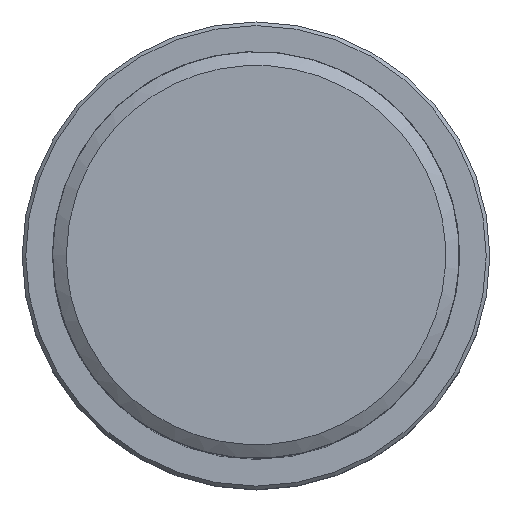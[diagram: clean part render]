
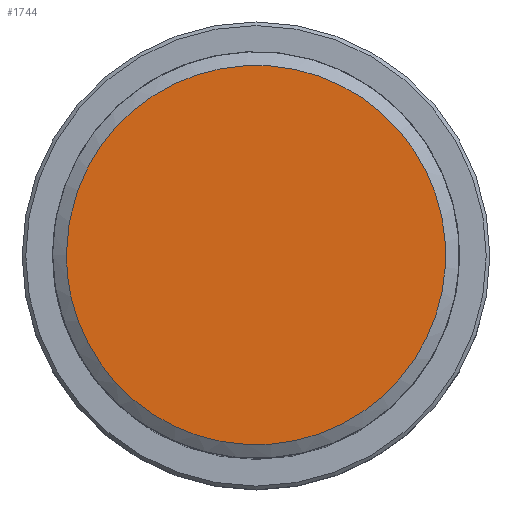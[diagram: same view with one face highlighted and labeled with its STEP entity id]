
A CAD part, top view. The second image highlights one B-rep face of the part: STEP entity #1744.
In plain terms, the highlighted planar face has unit normal (0, 0, 1).
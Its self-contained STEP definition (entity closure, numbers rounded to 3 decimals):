
#479 = VERTEX_POINT('',#480);
#480 = CARTESIAN_POINT('',(-7.38,0.006,
    16.));
#486 = EDGE_CURVE('',#479,#479,#487,.T.);
#487 = B_SPLINE_CURVE_WITH_KNOTS('',3,(#488,#489,#490,#491,#492,#493,
    #494,#495,#496,#497,#498,#499,#500,#501,#502,#503,#504,#505,#506,
    #507,#508,#509,#510,#511,#512,#513,#514,#515,#516,#517,#518,#519,
    #520,#521,#522,#523),.UNSPECIFIED.,.T.,.F.,(1,3,2,2,2,2,2,2,2,2,2,2,
    2,2,2,2,2,2,3,1),(-1.571,0.,2.862,
    5.729,8.591,11.453,14.316,
    17.178,20.041,22.904,25.767,
    28.631,31.494,34.358,37.222,
    40.087,42.951,44.52,46.091,
    48.953),.UNSPECIFIED.);
#488 = CARTESIAN_POINT('',(-7.38,0.006,
    16.));
#489 = CARTESIAN_POINT('',(-7.379,0.96,16.));
#490 = CARTESIAN_POINT('',(-7.187,1.931,16.));
#491 = CARTESIAN_POINT('',(-6.459,3.697,16.));
#492 = CARTESIAN_POINT('',(-5.91,4.523,16.));
#493 = CARTESIAN_POINT('',(-4.564,5.878,16.));
#494 = CARTESIAN_POINT('',(-3.743,6.432,16.));
#495 = CARTESIAN_POINT('',(-1.984,7.172,16.));
#496 = CARTESIAN_POINT('',(-1.014,7.372,16.));
#497 = CARTESIAN_POINT('',(0.894,7.388,16.));
#498 = CARTESIAN_POINT('',(1.867,7.204,16.));
#499 = CARTESIAN_POINT('',(3.637,6.492,16.));
#500 = CARTESIAN_POINT('',(4.467,5.952,16.));
#501 = CARTESIAN_POINT('',(5.834,4.62,16.));
#502 = CARTESIAN_POINT('',(6.396,3.804,16.));
#503 = CARTESIAN_POINT('',(7.153,2.052,16.));
#504 = CARTESIAN_POINT('',(7.362,1.084,16.));
#505 = CARTESIAN_POINT('',(7.396,-0.825,16.));
#506 = CARTESIAN_POINT('',(7.221,-1.8,16.));
#507 = CARTESIAN_POINT('',(6.525,-3.578,16.));
#508 = CARTESIAN_POINT('',(5.992,-4.413,16.));
#509 = CARTESIAN_POINT('',(4.672,-5.792,16.));
#510 = CARTESIAN_POINT('',(3.862,-6.361,16.));
#511 = CARTESIAN_POINT('',(2.116,-7.135,16.));
#512 = CARTESIAN_POINT('',(1.149,-7.352,16.));
#513 = CARTESIAN_POINT('',(-0.759,-7.403,16.)
  );
#514 = CARTESIAN_POINT('',(-1.736,-7.236,16.)
  );
#515 = CARTESIAN_POINT('',(-3.52,-6.556,16.));
#516 = CARTESIAN_POINT('',(-4.361,-6.03,16.)
  );
#517 = CARTESIAN_POINT('',(-5.752,-4.722,16.));
#518 = CARTESIAN_POINT('',(-6.328,-3.916,16.)
  );
#519 = CARTESIAN_POINT('',(-6.938,-2.57,16.));
#520 = CARTESIAN_POINT('',(-7.104,-2.067,16.)
  );
#521 = CARTESIAN_POINT('',(-7.325,-1.044,16.)
  );
#522 = CARTESIAN_POINT('',(-7.381,-0.518,16.)
  );
#523 = CARTESIAN_POINT('',(-7.38,0.006,
    16.));
#1744 = ADVANCED_FACE('',(#1745),#1748,.F.);
#1745 = FACE_BOUND('',#1746,.T.);
#1746 = EDGE_LOOP('',(#1747));
#1747 = ORIENTED_EDGE('',*,*,#486,.F.);
#1748 = PLANE('',#1749);
#1749 = AXIS2_PLACEMENT_3D('',#1750,#1751,#1752);
#1750 = CARTESIAN_POINT('',(7.92,0.,16.));
#1751 = DIRECTION('',(0.,0.,-1.));
#1752 = DIRECTION('',(-1.,0.,0.));
